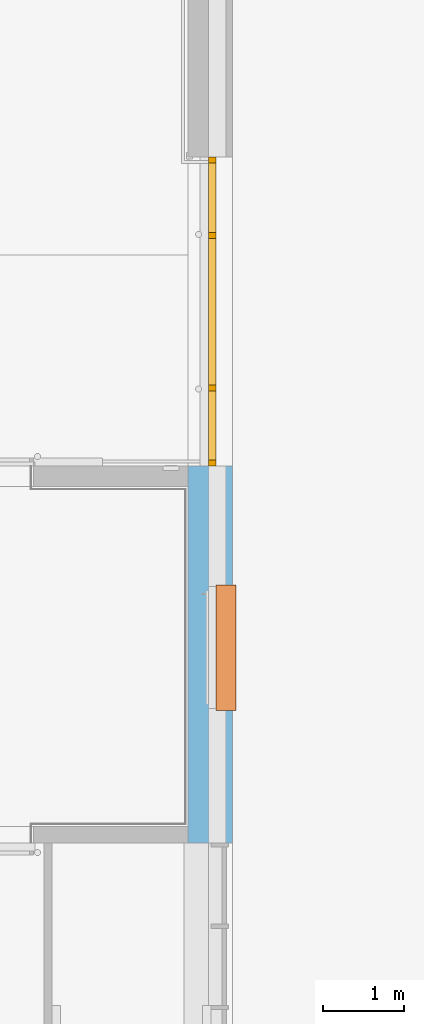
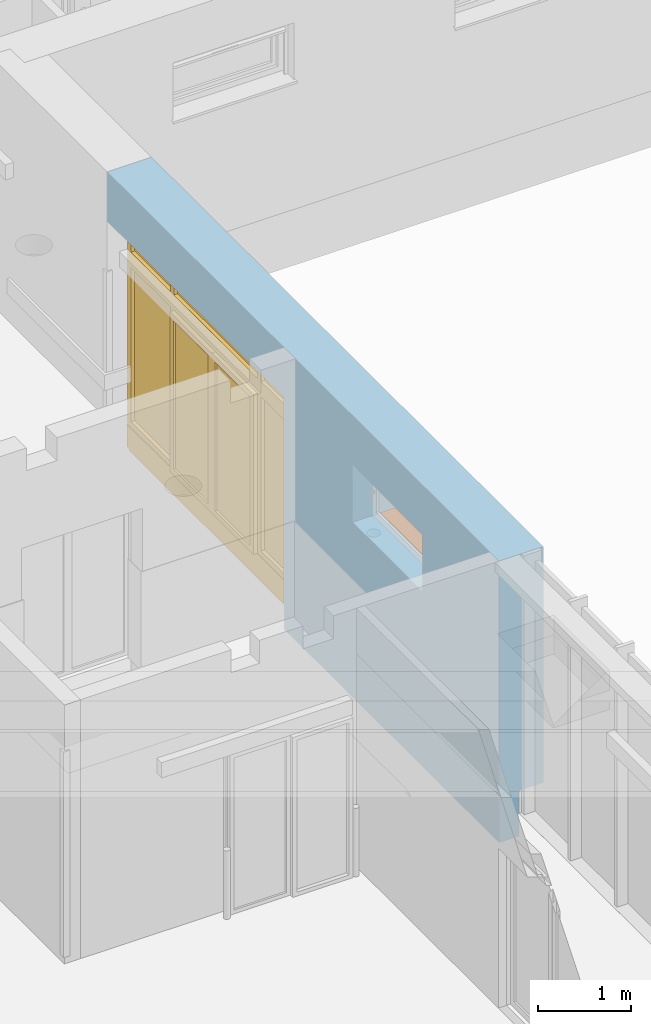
# One storey, part 106 of 140: 1 door, 1 proxy, 2 openings, plus 1 element that does not belong to this part.
"""IFC4 building model written with IfcOpenShell, lengths in metres."""

from ifc_helpers import new_model, entity, si_unit, converted_unit, derived_unit, frame, frame_2d, origin, origin_with_axes, place, context, subcontext, project, spatial, polyline, rectangle, outline, extrude, clip, bounded_halfspace, closed_shell, open_shell, faceted_brep, surface_model, source, transform, mapped, material, layer, layer_set, layer_usage, type_object, element, fill, save


model = new_model("IFC4")

# Units and contexts
model_context = context("Model", 3, precision=1e-05, world=origin())
body_context = subcontext(model_context, "Body", "Model", "MODEL_VIEW")
ifc_project = project(units=[si_unit("LENGTHUNIT", "METRE"), si_unit("AREAUNIT", "SQUARE_METRE"), si_unit("VOLUMEUNIT", "CUBIC_METRE"), si_unit("MASSUNIT", "GRAM", prefix="KILO"), converted_unit("PLANEANGLEUNIT", "DEGREE", entity("IfcPlaneAngleMeasure", 0.0174532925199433), si_unit("PLANEANGLEUNIT", "RADIAN"), dimensions=[0, 0, 0, 0, 0, 0, 0]), derived_unit("THERMALTRANSMITTANCEUNIT", [(si_unit("POWERUNIT", "WATT"), 1), (si_unit("THERMODYNAMICTEMPERATUREUNIT", "KELVIN"), -1), (si_unit("LENGTHUNIT", "METRE"), -2)]), derived_unit("VOLUMETRICFLOWRATEUNIT", [(si_unit("LENGTHUNIT", "METRE"), 3), (converted_unit("TIMEUNIT", "hour", entity("IfcTimeMeasure", 3600.0), si_unit("TIMEUNIT", "SECOND"), dimensions=[0, 0, 1, 0, 0, 0, 0]), -1), (si_unit("LENGTHUNIT", "METRE"), -1)])], contexts=[model_context])

# Site, building, storey
site_placement = place(None, origin())
site = spatial("IfcSite", under=ifc_project, at=site_placement, Name="3. ASŘ", CompositionType="ELEMENT")
building_placement = place(site_placement, origin())
building = spatial("IfcBuilding", under=site, at=building_placement, Name="Pavilon C", CompositionType="ELEMENT")
storey_placement = place(building_placement, origin())
storey = spatial("IfcBuildingStorey", under=building, at=storey_placement, Name="Půdorys 1.NP", CompositionType="ELEMENT", Elevation=0.0)

# Wall, openings, door, proxy
ifc_material_1 = material(Name="ZELEZOBETONOVÁ KCE")
ifc_layer_1 = layer(ifc_material_1, 0.25)
ifc_material_2 = material(Name="MINERÁLNÍ VATA")
ifc_layer_2 = layer(ifc_material_2, 0.3)
ifc_layer_set = layer_set([ifc_layer_1, ifc_layer_2])
ifc_layer_usage = layer_usage(ifc_layer_set, "AXIS2", "POSITIVE", 0.0)
wall_placement = place(storey_placement, frame((55.45, 3.82999999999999, -0.3), z_axis=(0.0, 0.0, 1.0), x_axis=(0.0, -1.0, 0.0)))
wall = element("IfcWall", 1, at=wall_placement, inside=storey, material=ifc_layer_usage, Name="ZELEZOBETONOVÁ KCE", context=body_context, shape_type="Clipping", body=[
    clip(extrude(rectangle(XDim=8.42999999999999, YDim=0.55, at=frame_2d((4.21499999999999, 0.275), x_axis=(1.0, 0.0))), origin_with_axes(), (0.0, 0.0, 1.0), 3.7), bounded_halfspace(frame((4.21499999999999, 0.4, 0.6), z_axis=(0.0, 0.0, 1.0), x_axis=(0.0, -1.0, 0.0)), True, origin_with_axes(), polyline([(0.0, 0.55), (0.0, 0.250000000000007), (8.42999999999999, 0.250000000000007), (8.42999999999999, 0.55), (0.0, 0.55)]))),
])
opening_1_placement = place(wall_placement, frame((3.8, 0.25, 0.0), z_axis=(0.0, -1.0, 0.0), x_axis=(0.0, 0.0, 1.0)))
opening_1 = element("IfcOpeningElement", 2, at=opening_1_placement, cuts=wall, Name="Dveřní otvor", ObjectType="Opening", context=body_context, shape_type="SweptSolid", body=[
    extrude(outline(polyline([(0.0, 3.8), (3.05, 3.8), (3.05, 0.0), (0.0, 0.0), (0.0, 3.8)])), origin_with_axes(), (0.0, 0.0, 1.0), 0.25),
    extrude(outline(polyline([(0.0, 3.8), (3.05, 3.8), (3.05, 0.0), (0.0, 0.0), (0.0, 3.8)])), frame((0.0, -1.4210854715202e-17, -0.3), z_axis=(0.0, 0.0, 1.0), x_axis=(1.0, 0.0, 0.0)), (0.0, 0.0, 1.0), 0.3),
])
opening_2_placement = place(wall_placement, frame((6.77999999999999, 0.25, 2.3), z_axis=(0.0, -1.0, 0.0), x_axis=(0.0, 0.0, 1.0)))
opening_2 = element("IfcOpeningElement", 3, at=opening_2_placement, cuts=wall, Name="Okenní otvor", ObjectType="Opening", context=body_context, shape_type="SweptSolid", body=[
    extrude(outline(polyline([(0.0, 1.5), (0.75, 1.5), (0.75, 0.0), (0.0, 0.0), (0.0, 1.5)])), origin_with_axes(), (0.0, 0.0, 1.0), 0.25),
    extrude(outline(polyline([(0.0, 1.5), (0.75, 1.5), (0.75, 0.0), (0.0, 0.0), (0.0, 1.5)])), frame((0.0, 0.0, -0.3), z_axis=(0.0, 0.0, 1.0), x_axis=(1.0, 0.0, 0.0)), (0.0, 0.0, 1.0), 0.3),
])
door_type = type_object("IfcDoorType", Name="I.DF02", OperationType="NOTDEFINED", ParameterTakesPrecedence=False, PredefinedType="DOOR")
shared_shape_1 = source(origin_with_axes(), body_context, "Body", "SurfaceModel", [
    surface_model("IfcShellBasedSurfaceModel", [(0.0, 0.1, 0.32), (0.0, 0.1, 0.02), (0.05, 0.1, 0.02), (0.05, 0.1, 0.32), (0.0, 0.0, 0.02), (0.0, 4.2632564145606e-17, 0.32), (0.05, 4.2632564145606e-17, 0.32), (0.05, 0.0, 0.02)], [closed_shell([[[0, 1, 2, 3]], [[4, 5, 6, 7]], [[1, 0, 5, 4]], [[2, 1, 4, 7]], [[3, 2, 7, 6]], [[0, 3, 6, 5]]], orient=[[False], [False], [False], [False], [False], [False]])]),
    surface_model("IfcShellBasedSurfaceModel", [(3.75, 0.1, 0.32), (3.75, 0.1, 0.02), (3.8, 0.1, 0.02), (3.8, 0.1, 0.32), (3.75, 0.0, 0.02), (3.75, 4.2632564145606e-17, 0.32), (3.8, 4.2632564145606e-17, 0.32), (3.8, 0.0, 0.02)], [closed_shell([[[0, 1, 2, 3]], [[4, 5, 6, 7]], [[1, 0, 5, 4]], [[2, 1, 4, 7]], [[3, 2, 7, 6]], [[0, 3, 6, 5]]], orient=[[False], [False], [False], [False], [False], [False]])]),
    surface_model("IfcShellBasedSurfaceModel", [(0.05, 0.1, 0.32), (0.05, 0.1, -2.1316282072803e-17), (3.75, 0.1, -2.1316282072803e-17), (3.75, 0.1, 0.32), (0.05, 0.0, -1.06581410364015e-17), (0.05, 4.2632564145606e-17, 0.32), (3.75, 4.2632564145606e-17, 0.32), (3.75, 0.0, -1.06581410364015e-17)], [closed_shell([[[0, 1, 2, 3]], [[4, 5, 6, 7]], [[1, 0, 5, 4]], [[2, 1, 4, 7]], [[3, 2, 7, 6]], [[0, 3, 6, 5]]], orient=[[False], [False], [False], [False], [False], [False]])]),
    surface_model("IfcShellBasedSurfaceModel", [(0.0, 0.0960000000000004, 3.07), (0.0, 0.0960000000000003, 2.422), (0.075, 0.0960000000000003, 2.422), (0.075, 0.0960000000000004, 3.07), (0.0, 0.00400000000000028, 2.422), (0.0, 0.00400000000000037, 3.07), (0.075, 0.00400000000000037, 3.07), (0.075, 0.00400000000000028, 2.422)], [closed_shell([[[0, 1, 2, 3]], [[4, 5, 6, 7]], [[1, 0, 5, 4]], [[2, 1, 4, 7]], [[3, 2, 7, 6]], [[0, 3, 6, 5]]], orient=[[False], [False], [False], [False], [False], [False]])]),
    surface_model("IfcShellBasedSurfaceModel", [(0.924, 0.0960000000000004, 3.07), (0.924, 0.0960000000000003, 2.422), (0.999, 0.0960000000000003, 2.422), (0.999, 0.0960000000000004, 3.07), (0.924, 0.00400000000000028, 2.422), (0.924, 0.00400000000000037, 3.07), (0.999, 0.00400000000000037, 3.07), (0.999, 0.00400000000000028, 2.422)], [closed_shell([[[0, 1, 2, 3]], [[4, 5, 6, 7]], [[1, 0, 5, 4]], [[2, 1, 4, 7]], [[3, 2, 7, 6]], [[0, 3, 6, 5]]], orient=[[False], [False], [False], [False], [False], [False]])]),
    surface_model("IfcShellBasedSurfaceModel", [(0.075, 0.0960000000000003, 2.622), (0.075, 0.0960000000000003, 2.422), (0.924, 0.0960000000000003, 2.422), (0.924, 0.0960000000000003, 2.622), (0.075, 0.00400000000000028, 2.422), (0.075, 0.00400000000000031, 2.622), (0.924, 0.00400000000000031, 2.622), (0.924, 0.00400000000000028, 2.422)], [closed_shell([[[0, 1, 2, 3]], [[4, 5, 6, 7]], [[1, 0, 5, 4]], [[2, 1, 4, 7]], [[3, 2, 7, 6]], [[0, 3, 6, 5]]], orient=[[False], [False], [False], [False], [False], [False]])]),
    surface_model("IfcShellBasedSurfaceModel", [(0.075, 0.0960000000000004, 3.07), (0.075, 0.0960000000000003, 2.995), (0.924, 0.0960000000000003, 2.995), (0.924, 0.0960000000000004, 3.07), (0.075, 0.00400000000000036, 2.995), (0.075, 0.00400000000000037, 3.07), (0.924, 0.00400000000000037, 3.07), (0.924, 0.00400000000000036, 2.995)], [closed_shell([[[0, 1, 2, 3]], [[4, 5, 6, 7]], [[1, 0, 5, 4]], [[2, 1, 4, 7]], [[3, 2, 7, 6]], [[0, 3, 6, 5]]], orient=[[False], [False], [False], [False], [False], [False]])]),
    surface_model("IfcShellBasedSurfaceModel", [(1.0, 0.0960000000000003, 2.622), (1.0, 0.0960000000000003, 2.422), (2.8, 0.0960000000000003, 2.422), (2.8, 0.0960000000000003, 2.622), (1.0, 0.00400000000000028, 2.422), (1.0, 0.00400000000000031, 2.622), (2.8, 0.00400000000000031, 2.622), (2.8, 0.00400000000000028, 2.422)], [closed_shell([[[0, 1, 2, 3]], [[4, 5, 6, 7]], [[1, 0, 5, 4]], [[2, 1, 4, 7]], [[3, 2, 7, 6]], [[0, 3, 6, 5]]], orient=[[False], [False], [False], [False], [False], [False]])]),
    surface_model("IfcShellBasedSurfaceModel", [(1.0, 0.0960000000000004, 3.07), (1.0, 0.0960000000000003, 2.995), (2.8, 0.0960000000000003, 2.995), (2.8, 0.0960000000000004, 3.07), (1.0, 0.00400000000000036, 2.995), (1.0, 0.00400000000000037, 3.07), (2.8, 0.00400000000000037, 3.07), (2.8, 0.00400000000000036, 2.995)], [closed_shell([[[0, 1, 2, 3]], [[4, 5, 6, 7]], [[1, 0, 5, 4]], [[2, 1, 4, 7]], [[3, 2, 7, 6]], [[0, 3, 6, 5]]], orient=[[False], [False], [False], [False], [False], [False]])]),
    surface_model("IfcShellBasedSurfaceModel", [(2.801, 0.0960000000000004, 3.07), (2.801, 0.0960000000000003, 2.422), (2.876, 0.0960000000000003, 2.422), (2.876, 0.0960000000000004, 3.07), (2.801, 0.00400000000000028, 2.422), (2.801, 0.00400000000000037, 3.07), (2.876, 0.00400000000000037, 3.07), (2.876, 0.00400000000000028, 2.422)], [closed_shell([[[0, 1, 2, 3]], [[4, 5, 6, 7]], [[1, 0, 5, 4]], [[2, 1, 4, 7]], [[3, 2, 7, 6]], [[0, 3, 6, 5]]], orient=[[False], [False], [False], [False], [False], [False]])]),
    surface_model("IfcShellBasedSurfaceModel", [(3.725, 0.0960000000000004, 3.07), (3.725, 0.0960000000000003, 2.422), (3.8, 0.0960000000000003, 2.422), (3.8, 0.0960000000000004, 3.07), (3.725, 0.00400000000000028, 2.422), (3.725, 0.00400000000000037, 3.07), (3.8, 0.00400000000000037, 3.07), (3.8, 0.00400000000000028, 2.422)], [closed_shell([[[0, 1, 2, 3]], [[4, 5, 6, 7]], [[1, 0, 5, 4]], [[2, 1, 4, 7]], [[3, 2, 7, 6]], [[0, 3, 6, 5]]], orient=[[False], [False], [False], [False], [False], [False]])]),
    surface_model("IfcShellBasedSurfaceModel", [(2.876, 0.0960000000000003, 2.622), (2.876, 0.0960000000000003, 2.422), (3.725, 0.0960000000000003, 2.422), (3.725, 0.0960000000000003, 2.622), (2.876, 0.00400000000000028, 2.422), (2.876, 0.00400000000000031, 2.622), (3.725, 0.00400000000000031, 2.622), (3.725, 0.00400000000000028, 2.422)], [closed_shell([[[0, 1, 2, 3]], [[4, 5, 6, 7]], [[1, 0, 5, 4]], [[2, 1, 4, 7]], [[3, 2, 7, 6]], [[0, 3, 6, 5]]], orient=[[False], [False], [False], [False], [False], [False]])]),
    surface_model("IfcShellBasedSurfaceModel", [(2.876, 0.0960000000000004, 3.07), (2.876, 0.0960000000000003, 2.995), (3.725, 0.0960000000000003, 2.995), (3.725, 0.0960000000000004, 3.07), (2.876, 0.00400000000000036, 2.995), (2.876, 0.00400000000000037, 3.07), (3.725, 0.00400000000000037, 3.07), (3.725, 0.00400000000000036, 2.995)], [closed_shell([[[0, 1, 2, 3]], [[4, 5, 6, 7]], [[1, 0, 5, 4]], [[2, 1, 4, 7]], [[3, 2, 7, 6]], [[0, 3, 6, 5]]], orient=[[False], [False], [False], [False], [False], [False]])]),
    surface_model("IfcShellBasedSurfaceModel", [(0.075, 0.0500000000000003, 2.622), (0.924, 0.0500000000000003, 2.622), (0.924, 0.0500000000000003, 2.995), (0.075, 0.0500000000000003, 2.995)], [open_shell([[[0, 1, 2, 3]]], orient=[[False]])]),
    surface_model("IfcShellBasedSurfaceModel", [(2.876, 0.0500000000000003, 2.622), (3.725, 0.0500000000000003, 2.622), (3.725, 0.0500000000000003, 2.995), (2.876, 0.0500000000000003, 2.995)], [open_shell([[[0, 1, 2, 3]]], orient=[[False]])]),
    surface_model("IfcShellBasedSurfaceModel", [(1.0, 0.0500000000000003, 2.622), (2.8, 0.0500000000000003, 2.622), (2.8, 0.0500000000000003, 2.995), (1.0, 0.0500000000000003, 2.995)], [open_shell([[[0, 1, 2, 3]]], orient=[[False]])]),
    surface_model("IfcShellBasedSurfaceModel", [(0.0, 0.0960000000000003, 2.421), (0.0, 0.096, 0.321), (0.075, 0.096, 0.321), (0.075, 0.0960000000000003, 2.421), (0.0, 0.00400000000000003, 0.321), (0.0, 0.00400000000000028, 2.421), (0.075, 0.00400000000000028, 2.421), (0.075, 0.00400000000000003, 0.321)], [closed_shell([[[0, 1, 2, 3]], [[4, 5, 6, 7]], [[1, 0, 5, 4]], [[2, 1, 4, 7]], [[3, 2, 7, 6]], [[0, 3, 6, 5]]], orient=[[False], [False], [False], [False], [False], [False]])]),
    surface_model("IfcShellBasedSurfaceModel", [(0.924, 0.0960000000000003, 2.421), (0.924, 0.096, 0.321), (0.999, 0.096, 0.321), (0.999, 0.0960000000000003, 2.421), (0.924, 0.00400000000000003, 0.321), (0.924, 0.00400000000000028, 2.421), (0.999, 0.00400000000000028, 2.421), (0.999, 0.00400000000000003, 0.321)], [closed_shell([[[0, 1, 2, 3]], [[4, 5, 6, 7]], [[1, 0, 5, 4]], [[2, 1, 4, 7]], [[3, 2, 7, 6]], [[0, 3, 6, 5]]], orient=[[False], [False], [False], [False], [False], [False]])]),
    surface_model("IfcShellBasedSurfaceModel", [(0.075, 0.096, 0.396), (0.075, 0.096, 0.321), (0.924, 0.096, 0.321), (0.924, 0.096, 0.396), (0.075, 0.00400000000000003, 0.321), (0.075, 0.00400000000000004, 0.396), (0.924, 0.00400000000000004, 0.396), (0.924, 0.00400000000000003, 0.321)], [closed_shell([[[0, 1, 2, 3]], [[4, 5, 6, 7]], [[1, 0, 5, 4]], [[2, 1, 4, 7]], [[3, 2, 7, 6]], [[0, 3, 6, 5]]], orient=[[False], [False], [False], [False], [False], [False]])]),
    surface_model("IfcShellBasedSurfaceModel", [(2.801, 0.0960000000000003, 2.421), (2.801, 0.096, 0.321), (2.876, 0.096, 0.321), (2.876, 0.0960000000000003, 2.421), (2.801, 0.00400000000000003, 0.321), (2.801, 0.00400000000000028, 2.421), (2.876, 0.00400000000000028, 2.421), (2.876, 0.00400000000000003, 0.321)], [closed_shell([[[0, 1, 2, 3]], [[4, 5, 6, 7]], [[1, 0, 5, 4]], [[2, 1, 4, 7]], [[3, 2, 7, 6]], [[0, 3, 6, 5]]], orient=[[False], [False], [False], [False], [False], [False]])]),
    surface_model("IfcShellBasedSurfaceModel", [(3.725, 0.0960000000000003, 2.421), (3.725, 0.096, 0.321), (3.8, 0.096, 0.321), (3.8, 0.0960000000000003, 2.421), (3.725, 0.00400000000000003, 0.321), (3.725, 0.00400000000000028, 2.421), (3.8, 0.00400000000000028, 2.421), (3.8, 0.00400000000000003, 0.321)], [closed_shell([[[0, 1, 2, 3]], [[4, 5, 6, 7]], [[1, 0, 5, 4]], [[2, 1, 4, 7]], [[3, 2, 7, 6]], [[0, 3, 6, 5]]], orient=[[False], [False], [False], [False], [False], [False]])]),
    surface_model("IfcShellBasedSurfaceModel", [(2.876, 0.096, 0.396), (2.876, 0.096, 0.321), (3.725, 0.096, 0.321), (3.725, 0.096, 0.396), (2.876, 0.00400000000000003, 0.321), (2.876, 0.00400000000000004, 0.396), (3.725, 0.00400000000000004, 0.396), (3.725, 0.00400000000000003, 0.321)], [closed_shell([[[0, 1, 2, 3]], [[4, 5, 6, 7]], [[1, 0, 5, 4]], [[2, 1, 4, 7]], [[3, 2, 7, 6]], [[0, 3, 6, 5]]], orient=[[False], [False], [False], [False], [False], [False]])]),
    surface_model("IfcShellBasedSurfaceModel", [(0.075, 0.05, 0.396), (0.924, 0.05, 0.396), (0.924, 0.0500000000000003, 2.421), (0.075, 0.0500000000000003, 2.421)], [open_shell([[[0, 1, 2, 3]]], orient=[[False]])]),
    surface_model("IfcShellBasedSurfaceModel", [(2.876, 0.05, 0.396), (3.725, 0.05, 0.396), (3.725, 0.0500000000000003, 2.421), (2.876, 0.0500000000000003, 2.421)], [open_shell([[[0, 1, 2, 3]]], orient=[[False]])]),
    surface_model("IfcShellBasedSurfaceModel", [(1.0, 0.146, 2.421), (1.0, 0.146, 0.321), (1.075, 0.146, 0.321), (1.075, 0.146, 2.421), (1.0, 0.096, 0.321), (1.0, 0.0960000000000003, 2.421), (1.075, 0.0960000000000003, 2.421), (1.075, 0.096, 0.321)], [closed_shell([[[0, 1, 2, 3]], [[4, 5, 6, 7]], [[1, 0, 5, 4]], [[2, 1, 4, 7]], [[3, 2, 7, 6]], [[0, 3, 6, 5]]], orient=[[False], [False], [False], [False], [False], [False]])]),
    surface_model("IfcShellBasedSurfaceModel", [(1.8245, 0.146, 2.421), (1.8245, 0.146, 0.321), (1.8995, 0.146, 0.321), (1.8995, 0.146, 2.421), (1.8245, 0.096, 0.321), (1.8245, 0.0960000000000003, 2.421), (1.8995, 0.0960000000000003, 2.421), (1.8995, 0.096, 0.321)], [closed_shell([[[0, 1, 2, 3]], [[4, 5, 6, 7]], [[1, 0, 5, 4]], [[2, 1, 4, 7]], [[3, 2, 7, 6]], [[0, 3, 6, 5]]], orient=[[False], [False], [False], [False], [False], [False]])]),
    surface_model("IfcShellBasedSurfaceModel", [(1.075, 0.146, 0.396), (1.075, 0.146, 0.321), (1.8245, 0.146, 0.321), (1.8245, 0.146, 0.396), (1.075, 0.096, 0.321), (1.075, 0.096, 0.396), (1.8245, 0.096, 0.396), (1.8245, 0.096, 0.321)], [closed_shell([[[0, 1, 2, 3]], [[4, 5, 6, 7]], [[1, 0, 5, 4]], [[2, 1, 4, 7]], [[3, 2, 7, 6]], [[0, 3, 6, 5]]], orient=[[False], [False], [False], [False], [False], [False]])]),
    surface_model("IfcShellBasedSurfaceModel", [(1.075, 0.146, 2.421), (1.075, 0.146, 2.346), (1.8245, 0.146, 2.346), (1.8245, 0.146, 2.421), (1.075, 0.0960000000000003, 2.346), (1.075, 0.0960000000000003, 2.421), (1.8245, 0.0960000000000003, 2.421), (1.8245, 0.0960000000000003, 2.346)], [closed_shell([[[0, 1, 2, 3]], [[4, 5, 6, 7]], [[1, 0, 5, 4]], [[2, 1, 4, 7]], [[3, 2, 7, 6]], [[0, 3, 6, 5]]], orient=[[False], [False], [False], [False], [False], [False]])]),
    surface_model("IfcShellBasedSurfaceModel", [(1.9005, 0.146, 2.421), (1.9005, 0.146, 0.321), (1.9755, 0.146, 0.321), (1.9755, 0.146, 2.421), (1.9005, 0.096, 0.321), (1.9005, 0.0960000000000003, 2.421), (1.9755, 0.0960000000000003, 2.421), (1.9755, 0.096, 0.321)], [closed_shell([[[0, 1, 2, 3]], [[4, 5, 6, 7]], [[1, 0, 5, 4]], [[2, 1, 4, 7]], [[3, 2, 7, 6]], [[0, 3, 6, 5]]], orient=[[False], [False], [False], [False], [False], [False]])]),
    surface_model("IfcShellBasedSurfaceModel", [(2.725, 0.146, 2.421), (2.725, 0.146, 0.321), (2.8, 0.146, 0.321), (2.8, 0.146, 2.421), (2.725, 0.096, 0.321), (2.725, 0.0960000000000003, 2.421), (2.8, 0.0960000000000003, 2.421), (2.8, 0.096, 0.321)], [closed_shell([[[0, 1, 2, 3]], [[4, 5, 6, 7]], [[1, 0, 5, 4]], [[2, 1, 4, 7]], [[3, 2, 7, 6]], [[0, 3, 6, 5]]], orient=[[False], [False], [False], [False], [False], [False]])]),
    surface_model("IfcShellBasedSurfaceModel", [(1.9755, 0.146, 0.396), (1.9755, 0.146, 0.321), (2.725, 0.146, 0.321), (2.725, 0.146, 0.396), (1.9755, 0.096, 0.321), (1.9755, 0.096, 0.396), (2.725, 0.096, 0.396), (2.725, 0.096, 0.321)], [closed_shell([[[0, 1, 2, 3]], [[4, 5, 6, 7]], [[1, 0, 5, 4]], [[2, 1, 4, 7]], [[3, 2, 7, 6]], [[0, 3, 6, 5]]], orient=[[False], [False], [False], [False], [False], [False]])]),
    surface_model("IfcShellBasedSurfaceModel", [(1.9755, 0.146, 2.421), (1.9755, 0.146, 2.346), (2.725, 0.146, 2.346), (2.725, 0.146, 2.421), (1.9755, 0.0960000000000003, 2.346), (1.9755, 0.0960000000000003, 2.421), (2.725, 0.0960000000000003, 2.421), (2.725, 0.0960000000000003, 2.346)], [closed_shell([[[0, 1, 2, 3]], [[4, 5, 6, 7]], [[1, 0, 5, 4]], [[2, 1, 4, 7]], [[3, 2, 7, 6]], [[0, 3, 6, 5]]], orient=[[False], [False], [False], [False], [False], [False]])]),
    surface_model("IfcShellBasedSurfaceModel", [(1.075, 0.121, 0.396), (1.8245, 0.121, 0.396), (1.8245, 0.121, 2.346), (1.075, 0.121, 2.346)], [open_shell([[[0, 1, 2, 3]]], orient=[[False]])]),
    surface_model("IfcShellBasedSurfaceModel", [(1.9755, 0.121, 0.396), (2.725, 0.121, 0.396), (2.725, 0.121, 2.346), (1.9755, 0.121, 2.346)], [open_shell([[[0, 1, 2, 3]]], orient=[[False]])]),
])
door_placement = place(opening_1_placement, frame((-0.02, 3.8, -0.0959999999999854), z_axis=(1.0, 0.0, 0.0), x_axis=(0.0, -1.0, 1.22464679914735e-16)))
door = element("IfcDoor", 4, at=door_placement, inside=storey, type_object=door_type, Name="I.DF02", OverallHeight=3.05, OverallWidth=3.8, context=body_context, shape_type="MappedRepresentation", body=[
    mapped(shared_shape_1, transform((0.0, 0.0, 0.0), x_axis=(1.0, 0.0, 0.0), y_axis=(0.0, -1.0, 0.0), z_axis=(0.0, 0.0, 1.0), scale=1.0)),
])
fill(opening_1, door)
ifc_material_3 = material(Name="HLINÍKOVÝ PLECH ELOXOVANÝ")
shared_shape_2 = source(origin_with_axes(), body_context, "Body", "Brep", [
    faceted_brep([(1.36424205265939e-15, -0.299999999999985, 0.0), (1.36424205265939e-15, -0.0919999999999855, 0.0), (1.36424205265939e-15, -0.0919999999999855, 0.005), (1.36424205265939e-15, -0.299999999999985, 0.005), (1.5, -0.299999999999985, 0.0), (1.5, -0.299999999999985, 0.005), (1.5, -0.0919999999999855, 0.005), (1.5, -0.0919999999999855, 0.0), (-0.0199999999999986, -0.299999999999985, 0.0), (-0.0199999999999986, -0.334999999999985, 0.0), (1.52, -0.334999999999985, 0.0), (1.52, -0.299999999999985, 0.0), (1.52, -0.299999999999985, 0.005), (1.52, -0.339999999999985, 0.005), (-0.0199999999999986, -0.339999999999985, 0.005), (-0.0199999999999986, -0.299999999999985, 0.005), (-0.0199999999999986, -0.339999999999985, -0.025), (-0.0199999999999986, -0.334999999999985, -0.025), (1.52, -0.334999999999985, -0.025), (1.52, -0.339999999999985, -0.025)], [[[0, 1, 2, 3]], [[4, 5, 6, 7]], [[1, 0, 8, 9, 10, 11, 4, 7]], [[2, 1, 7, 6]], [[3, 2, 6, 5, 12, 13, 14, 15]], [[8, 15, 14, 16, 17, 9]], [[11, 10, 18, 19, 13, 12]], [[15, 8, 0, 3]], [[5, 4, 11, 12]], [[16, 14, 13, 19]], [[17, 16, 19, 18]], [[9, 17, 18, 10]]], orient=[[False], [False], [False], [False], [False], [False], [False], [False], [False], [False], [False], [False]]),
    faceted_brep([(-0.0199999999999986, -0.299999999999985, 0.0), (-0.0199999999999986, -0.0919999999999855, 0.0), (-0.0199999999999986, -0.0919999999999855, 0.005), (-0.0199999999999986, -0.299999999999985, 0.005), (1.36424205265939e-15, -0.299999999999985, 0.0), (1.36424205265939e-15, -0.299999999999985, 0.005), (1.36424205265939e-15, -0.0919999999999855, 0.005), (1.36424205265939e-15, -0.0919999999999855, 0.0)], [[[0, 1, 2, 3]], [[4, 5, 6, 7]], [[1, 0, 4, 7]], [[2, 1, 7, 6]], [[3, 2, 6, 5]], [[0, 3, 5, 4]]], orient=[[False], [False], [False], [False], [False], [False]]),
    faceted_brep([(1.5, -0.299999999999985, 0.0), (1.5, -0.0919999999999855, 0.0), (1.5, -0.0919999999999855, 0.005), (1.5, -0.299999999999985, 0.005), (1.52, -0.299999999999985, 0.0), (1.52, -0.299999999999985, 0.005), (1.52, -0.0919999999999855, 0.005), (1.52, -0.0919999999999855, 0.0)], [[[0, 1, 2, 3]], [[4, 5, 6, 7]], [[1, 0, 4, 7]], [[2, 1, 7, 6]], [[3, 2, 6, 5]], [[0, 3, 5, 4]]], orient=[[False], [False], [False], [False], [False], [False]]),
])
proxy_placement = place(opening_2_placement, frame((0.0, 0.0, 0.0), z_axis=(1.0, 0.0, 0.0), x_axis=(0.0, 1.0, 0.0)))
proxy = element("IfcBuildingElementProxy", 5, at=proxy_placement, inside=storey, material=ifc_material_3, Name="Parapet vnější", context=body_context, shape_type="MappedRepresentation", body=[
    mapped(shared_shape_2, transform((0.0, 0.0, 0.0), x_axis=(1.0, 0.0, 0.0), y_axis=(0.0, 1.0, 0.0), z_axis=(0.0, 0.0, 1.0), scale=1.0)),
])
fill(opening_2, proxy)

save(model, "model.ifc")
